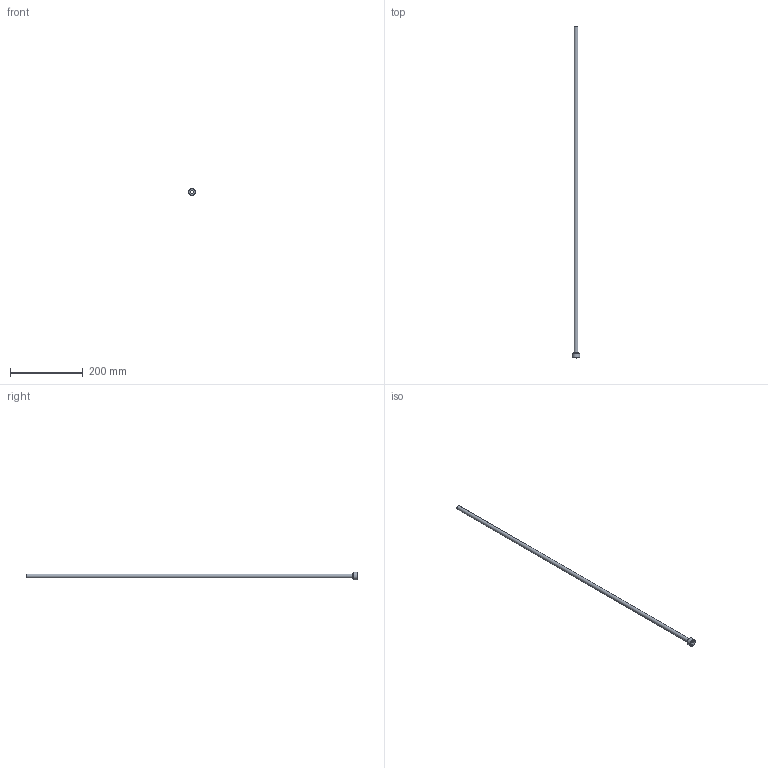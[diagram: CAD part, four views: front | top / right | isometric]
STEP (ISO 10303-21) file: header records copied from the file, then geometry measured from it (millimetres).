
FILE_DESCRIPTION(/* description */ (''),/* implementation_level */ '2;1');
FILE_NAME(/* name */ 'C:/Users/drich/Desktop/PT12-437-36 v1.step',/* time_stamp */ '2019-12-27T14:56:38-06:00',/* author */ (''),/* organization */ (''),/* preprocessor_version */ 'ST-DEVELOPER v18',/* originating_system */ 'Autodesk Translation Framework v8.12.0.6',/* authorisation */ '');
FILE_SCHEMA (('AUTOMOTIVE_DESIGN { 1 0 10303 214 3 1 1 }'));
Length unit declared in the file: inch
Products named in the file (1): PT12-437-36
Bounding box: 20.81 x 914.4 x 20.81 mm (x, y, z)
Volume: 14796.6 mm3; surface area: 61002.1 mm2
Topology: 1 solids, 1 shells, 30 faces, 71 edges, 45 vertices
Faces by surface type: plane 22, cylinder 4, torus 2, cone 2
Full cylindrical faces by diameter (mm): 10.084 x1, 10.846 x1, 13.868 x1, 20.813 x1
Entity records: 913 total; most frequent: DIRECTION 168, CARTESIAN_POINT 147, ORIENTED_EDGE 142, EDGE_CURVE 71, AXIS2_PLACEMENT_3D 66, VERTEX_POINT 45, LINE 36, VECTOR 36
